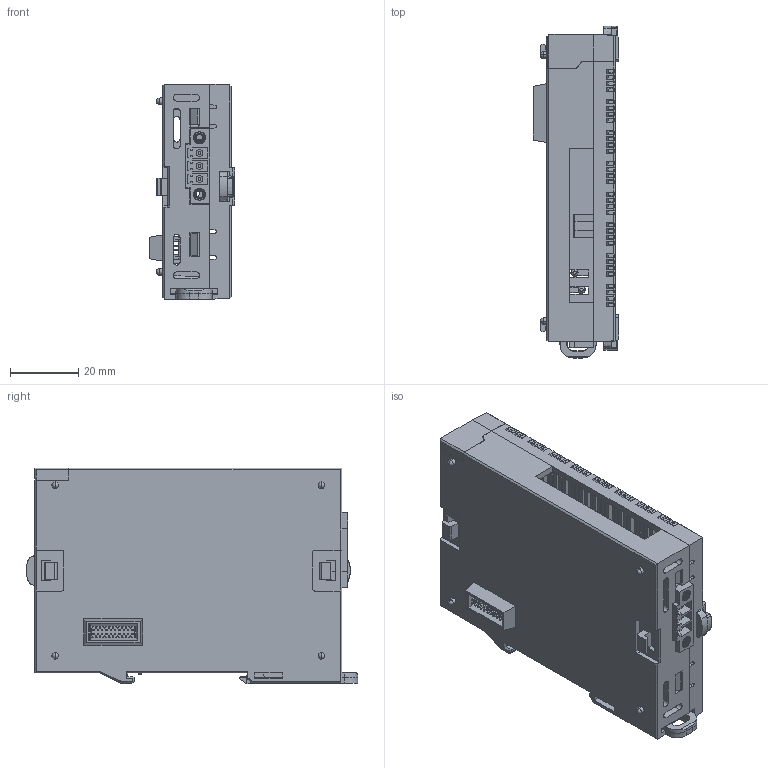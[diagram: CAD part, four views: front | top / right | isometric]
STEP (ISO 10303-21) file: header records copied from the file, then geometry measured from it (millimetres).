
FILE_DESCRIPTION (( 'STEP AP214' ), '1' );
FILE_NAME ('IO-SA0400.STEP', '2025-04-21T15:10:54', ( '' ), ( '' ), 'SwSTEP 2.0', 'SolidWorks 2019', '' );
FILE_SCHEMA (( 'AUTOMOTIVE_DESIGN' ));
Length unit declared in the file: inch
Products named in the file (16): C-3.STEP; F.STEP; IO-SA0400; Insert_M2.5.STEP; D.STEP; A.STEP; B.STEP; C.STEP; Connector_15EDGRM_3.81_03P_BCP22124_anytek.STEP; G.STEP; Plsc pin ______ 20_BCP09311_Plcs holder_12.5.STEP; C-1.STEP; CM3-SP04ERO_???_20171205.STEP; C-4.STEP; C-2.STEP; E.STEP
Assembly tree (19 placements, depth 5):
  IO-SA0400
    CM3-SP04ERO_???_20171205.STEP
      C.STEP
        C-3.STEP
          Plsc pin ______ 20_BCP09311_Plcs holder_12.5.STEP  x2
        C-4.STEP
          Connector_15EDGRM_3.81_03P_BCP22124_anytek.STEP
          Insert_M2.5.STEP  x2
        C-1.STEP
        C-2.STEP
      A.STEP
      B.STEP
      D.STEP  x2
      E.STEP  x2
      F.STEP
      G.STEP
Bounding box: 25 x 97.2 x 63.2 mm (x, y, z)
Volume: 31456.8 mm3; surface area: 46663.3 mm2
Topology: 15 solids, 15 shells, 4068 faces, 11290 edges, 7266 vertices
Faces by surface type: plane 3283, cylinder 630, cone 76, bspline 53, torus 14, sphere 12
Entity records: 107414 total; most frequent: CARTESIAN_POINT 22691, ORIENTED_EDGE 18262, DIRECTION 16118, EDGE_CURVE 9131, LINE 8050, VECTOR 8050, VERTEX_POINT 5882, AXIS2_PLACEMENT_3D 4034
